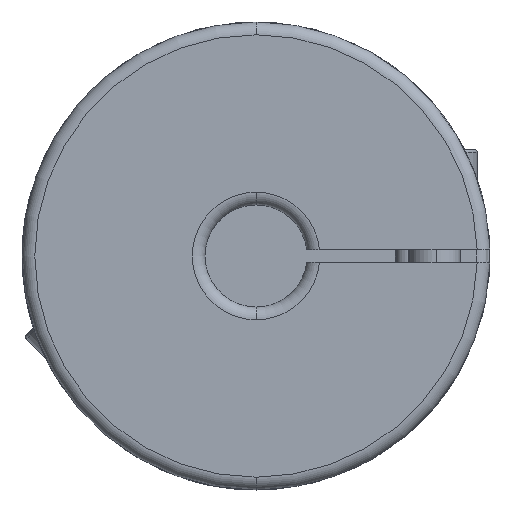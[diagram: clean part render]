
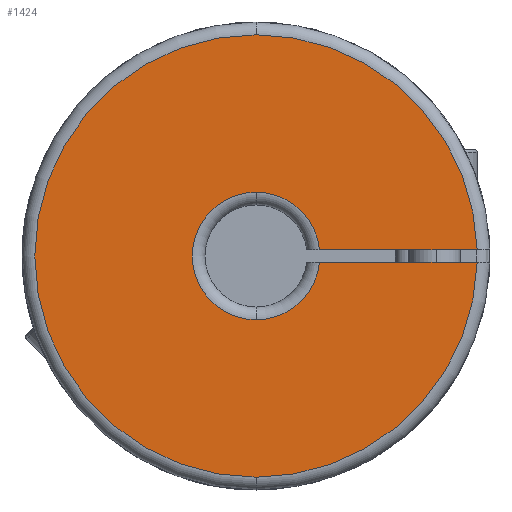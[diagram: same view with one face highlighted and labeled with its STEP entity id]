
A CAD part, front view. The second image highlights one B-rep face of the part: STEP entity #1424.
In plain terms, the highlighted planar face has unit normal (0, -1, 0).
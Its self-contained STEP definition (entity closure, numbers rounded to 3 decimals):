
#68 = VECTOR ( 'NONE', #7684, 1000. ) ;
#498 = CARTESIAN_POINT ( 'NONE',  ( 0., 0., -7.5 ) ) ;
#610 = EDGE_CURVE ( 'NONE', #3949, #8451, #8448, .T. ) ;
#623 = CARTESIAN_POINT ( 'NONE',  ( 0., 0., 0. ) ) ;
#698 = CIRCLE ( 'NONE', #1920, 7.5 ) ;
#908 = ORIENTED_EDGE ( 'NONE', *, *, #1684, .T. ) ;
#1268 = CARTESIAN_POINT ( 'NONE',  ( 7.462, 0., 0.75 ) ) ;
#1365 = CARTESIAN_POINT ( 'NONE',  ( 0., 0., -26. ) ) ;
#1424 = ADVANCED_FACE ( 'NONE', ( #4928 ), #6231, .F. ) ;
#1684 = EDGE_CURVE ( 'NONE', #8451, #6921, #2612, .T. ) ;
#1736 = EDGE_CURVE ( 'NONE', #6921, #3914, #4773, .T. ) ;
#1765 = CIRCLE ( 'NONE', #6533, 7.5 ) ;
#1920 = AXIS2_PLACEMENT_3D ( 'NONE', #623, #2060, #5007 ) ;
#2060 = DIRECTION ( 'NONE',  ( 0., -1., 0. ) ) ;
#2171 = DIRECTION ( 'NONE',  ( 0., 0., -1. ) ) ;
#2172 = CARTESIAN_POINT ( 'NONE',  ( 27.5, 0., -0.75 ) ) ;
#2231 = AXIS2_PLACEMENT_3D ( 'NONE', #5472, #8398, #6329 ) ;
#2290 = CARTESIAN_POINT ( 'NONE',  ( 7.462, 0., -0.75 ) ) ;
#2556 = DIRECTION ( 'NONE',  ( 0., 0., -1. ) ) ;
#2583 = CARTESIAN_POINT ( 'NONE',  ( 0., 0., 0.75 ) ) ;
#2608 = DIRECTION ( 'NONE',  ( 0., 1., 0. ) ) ;
#2612 = CIRCLE ( 'NONE', #6916, 26. ) ;
#2708 = VERTEX_POINT ( 'NONE', #498 ) ;
#2805 = EDGE_CURVE ( 'NONE', #3684, #4856, #8856, .T. ) ;
#3025 = DIRECTION ( 'NONE',  ( 0., -1., 0. ) ) ;
#3117 = VECTOR ( 'NONE', #8093, 1000. ) ;
#3170 = EDGE_CURVE ( 'NONE', #3914, #3684, #5433, .T. ) ;
#3645 = ORIENTED_EDGE ( 'NONE', *, *, #5044, .F. ) ;
#3684 = VERTEX_POINT ( 'NONE', #4793 ) ;
#3832 = CARTESIAN_POINT ( 'NONE',  ( 0., 0., 0. ) ) ;
#3914 = VERTEX_POINT ( 'NONE', #1365 ) ;
#3949 = VERTEX_POINT ( 'NONE', #1268 ) ;
#4093 = CARTESIAN_POINT ( 'NONE',  ( 0., 0., 0. ) ) ;
#4195 = DIRECTION ( 'NONE',  ( 0., 0., 1. ) ) ;
#4301 = AXIS2_PLACEMENT_3D ( 'NONE', #5399, #5259, #6124 ) ;
#4580 = ORIENTED_EDGE ( 'NONE', *, *, #3170, .T. ) ;
#4664 = ORIENTED_EDGE ( 'NONE', *, *, #6115, .F. ) ;
#4773 = CIRCLE ( 'NONE', #4301, 26. ) ;
#4793 = CARTESIAN_POINT ( 'NONE',  ( 25.989, 0., -0.75 ) ) ;
#4856 = VERTEX_POINT ( 'NONE', #2290 ) ;
#4928 = FACE_OUTER_BOUND ( 'NONE', #6262, .T. ) ;
#4976 = AXIS2_PLACEMENT_3D ( 'NONE', #4093, #7703, #2556 ) ;
#5007 = DIRECTION ( 'NONE',  ( 0., 0., -1. ) ) ;
#5044 = EDGE_CURVE ( 'NONE', #7919, #2708, #8989, .T. ) ;
#5210 = CARTESIAN_POINT ( 'NONE',  ( 0., 0., 0. ) ) ;
#5259 = DIRECTION ( 'NONE',  ( 0., -1., 0. ) ) ;
#5399 = CARTESIAN_POINT ( 'NONE',  ( 0., 0., 0. ) ) ;
#5433 = CIRCLE ( 'NONE', #4976, 26. ) ;
#5472 = CARTESIAN_POINT ( 'NONE',  ( 0., 0., 0. ) ) ;
#5501 = CARTESIAN_POINT ( 'NONE',  ( 25.989, 0., 0.75 ) ) ;
#5892 = ORIENTED_EDGE ( 'NONE', *, *, #1736, .T. ) ;
#6115 = EDGE_CURVE ( 'NONE', #2708, #4856, #698, .T. ) ;
#6124 = DIRECTION ( 'NONE',  ( 0., 0., -1. ) ) ;
#6155 = EDGE_CURVE ( 'NONE', #3949, #7919, #1765, .T. ) ;
#6181 = CARTESIAN_POINT ( 'NONE',  ( 0., 0., 26. ) ) ;
#6231 = PLANE ( 'NONE',  #6500 ) ;
#6262 = EDGE_LOOP ( 'NONE', ( #908, #5892, #4580, #7081, #4664, #3645, #9136, #6673 ) ) ;
#6329 = DIRECTION ( 'NONE',  ( 0., 0., -1. ) ) ;
#6500 = AXIS2_PLACEMENT_3D ( 'NONE', #9195, #2608, #4195 ) ;
#6533 = AXIS2_PLACEMENT_3D ( 'NONE', #3832, #3025, #8929 ) ;
#6575 = CARTESIAN_POINT ( 'NONE',  ( 0., 0., 7.5 ) ) ;
#6673 = ORIENTED_EDGE ( 'NONE', *, *, #610, .T. ) ;
#6916 = AXIS2_PLACEMENT_3D ( 'NONE', #5210, #7993, #2171 ) ;
#6921 = VERTEX_POINT ( 'NONE', #6181 ) ;
#7081 = ORIENTED_EDGE ( 'NONE', *, *, #2805, .T. ) ;
#7684 = DIRECTION ( 'NONE',  ( 1., 0., 0. ) ) ;
#7703 = DIRECTION ( 'NONE',  ( 0., -1., 0. ) ) ;
#7919 = VERTEX_POINT ( 'NONE', #6575 ) ;
#7993 = DIRECTION ( 'NONE',  ( 0., -1., 0. ) ) ;
#8093 = DIRECTION ( 'NONE',  ( -1., 0., 0. ) ) ;
#8398 = DIRECTION ( 'NONE',  ( 0., -1., 0. ) ) ;
#8448 = LINE ( 'NONE', #2583, #68 ) ;
#8451 = VERTEX_POINT ( 'NONE', #5501 ) ;
#8856 = LINE ( 'NONE', #2172, #3117 ) ;
#8929 = DIRECTION ( 'NONE',  ( 0., 0., -1. ) ) ;
#8989 = CIRCLE ( 'NONE', #2231, 7.5 ) ;
#9136 = ORIENTED_EDGE ( 'NONE', *, *, #6155, .F. ) ;
#9195 = CARTESIAN_POINT ( 'NONE',  ( -26., 0., 0. ) ) ;
